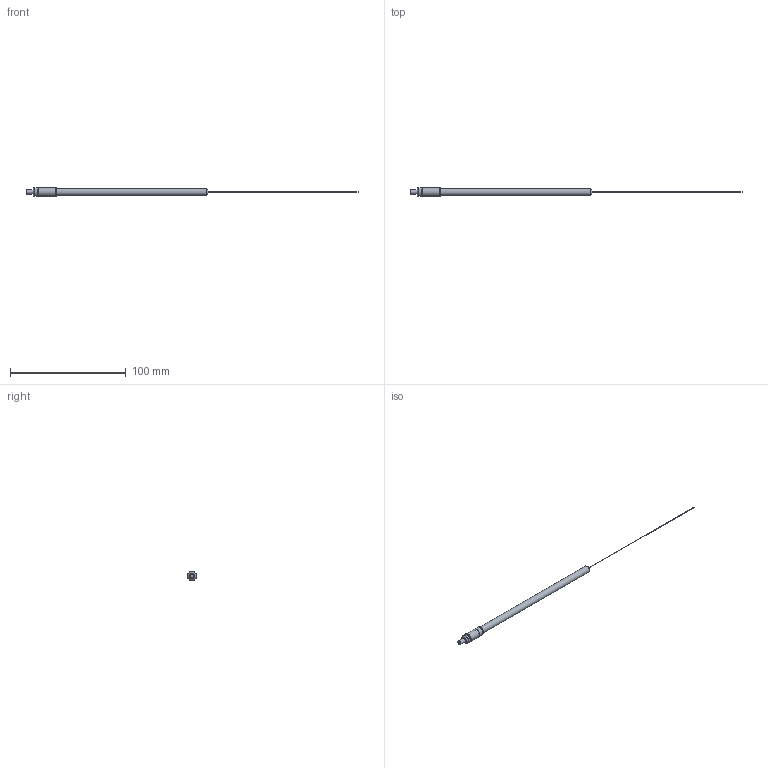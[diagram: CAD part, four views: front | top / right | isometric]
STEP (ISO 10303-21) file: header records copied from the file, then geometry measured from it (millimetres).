
FILE_DESCRIPTION(/* description */ (''),/* implementation_level */ '2;1');
FILE_NAME(/* name */ 'Zařízení návěstní 928063.stp',/* time_stamp */ '2024-05-29T12:37:32+02:00',/* author */ ('Jerabek'),/* organization */ ('OEZ'),/* preprocessor_version */ 'ST-DEVELOPER v18.101',/* originating_system */ 'SIEMENS PLM Software NX 2008',/* authorisation */ '');
FILE_SCHEMA (('AUTOMOTIVE_DESIGN { 1 0 10303 214 3 1 1 1 }'));
Length unit declared in the file: millimetre
Products named in the file (12): Podložka ISO 7092 3,2; Podložka 090502; Trubka 430801; Podložka 091626; Pružina 450574; Podložka 091628; Lanko 511500 S=35; Vodič 510048 L=180; Vodič 510048 L=155; Podložka 091711; Ukazatel 199006; Zařízení návěstní 9
28063
Assembly tree (13 placements, depth 2):
  Zařízení návěstní 9
28063
    Ukazatel 199006
    Podložka 091711
    Vodič 510048 L=155
    Vodič 510048 L=180
    Lanko 511500 S=35
    Podložka 091628
    Pružina 450574
    Podložka 091626
    Trubka 430801
    Podložka 090502
    Podložka ISO 7092 3,2  x3
Bounding box: 287 x 8 x 8 mm (x, y, z)
Volume: 3237.9 mm3; surface area: 5915.4 mm2
Topology: 15 solids, 15 shells, 132 faces, 228 edges, 129 vertices
Faces by surface type: torus 61, plane 35, cylinder 26, cone 5, bspline 3, revolution 2
Full cylindrical faces by diameter (mm): 0.05 x1, 0.18 x2, 0.3 x1, 0.8 x1, 1.358 x1, 3 x1, 3.1 x1, 3.2 x3, 3.5 x1, 3.6 x1, 5.619 x1, 5.85 x1, 5.9 x1, 6 x4, 6.2 x1, 6.49 x1, 7.4 x1, 7.49 x1, 7.5 x1, 8 x1
Entity records: 3002 total; most frequent: CARTESIAN_POINT 604, DIRECTION 500, AXIS2_PLACEMENT_3D 248, ORIENTED_EDGE 242, EDGE_LOOP 231, FACE_BOUND 214, ADVANCED_FACE 124, EDGE_CURVE 121
